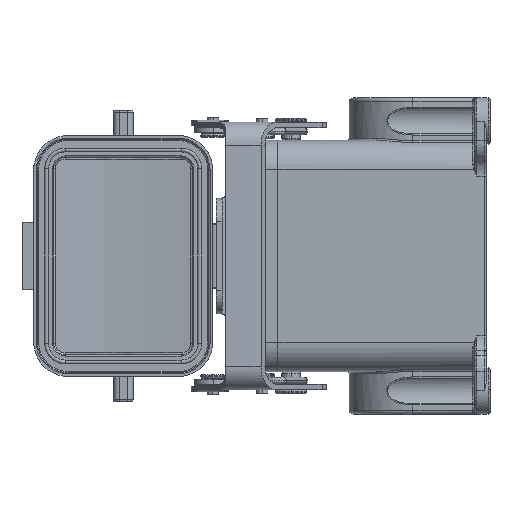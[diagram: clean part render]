
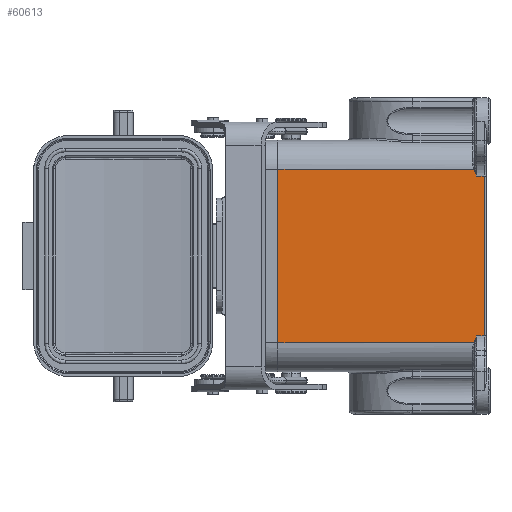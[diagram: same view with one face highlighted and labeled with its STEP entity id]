
A CAD part, left-side view. The second image highlights one B-rep face of the part: STEP entity #60613.
In plain terms, the highlighted planar face has unit normal (-1, 0, 0).
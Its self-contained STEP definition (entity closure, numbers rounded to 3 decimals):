
#3829 = CARTESIAN_POINT ( 'NONE',  ( -21.5, 0., 22.5 ) ) ;
#3921 = CARTESIAN_POINT ( 'NONE',  ( -21.5, 0., -30. ) ) ;
#4219 = VECTOR ( 'NONE', #32084, 1000. ) ;
#6789 = EDGE_LOOP ( 'NONE', ( #139756, #97416, #97574, #104739, #150197, #59338, #105683, #83543 ) ) ;
#9426 = FACE_OUTER_BOUND ( 'NONE', #6789, .T. ) ;
#13438 = CARTESIAN_POINT ( 'NONE',  ( -21.5, 2.5, -20.737 ) ) ;
#14618 = CARTESIAN_POINT ( 'NONE',  ( -21.5, 0.5, -20.737 ) ) ;
#15371 = EDGE_CURVE ( 'NONE', #84803, #158667, #138603, .T. ) ;
#16734 = VERTEX_POINT ( 'NONE', #14618 ) ;
#22528 = CARTESIAN_POINT ( 'NONE',  ( -21.5, 3.216, -22.5 ) ) ;
#22715 = CARTESIAN_POINT ( 'NONE',  ( -21.5, 3.117, -22.202 ) ) ;
#24352 = VECTOR ( 'NONE', #44968, 1000. ) ;
#29800 = EDGE_CURVE ( 'NONE', #158667, #16734, #99670, .T. ) ;
#31078 = CARTESIAN_POINT ( 'NONE',  ( -21.5, 3.216, 22.5 ) ) ;
#32084 = DIRECTION ( 'NONE',  ( 0., 0., -1. ) ) ;
#32135 = DIRECTION ( 'NONE',  ( 0., 0., 1. ) ) ;
#34040 = CARTESIAN_POINT ( 'NONE',  ( -21.5, 2.757, -21.313 ) ) ;
#41011 = B_SPLINE_CURVE_WITH_KNOTS ( 'NONE', 3,
 ( #82966, #44062, #56462, #96540, #58147, #31078 ),
 .UNSPECIFIED., .F., .F.,
 ( 4, 2, 4 ),
 ( 0., 0.5, 1. ),
 .UNSPECIFIED. ) ;
#42029 = VERTEX_POINT ( 'NONE', #44653 ) ;
#42234 = CARTESIAN_POINT ( 'NONE',  ( -21.5, 54., -30. ) ) ;
#43180 = EDGE_CURVE ( 'NONE', #153509, #42029, #76797, .T. ) ;
#44062 = CARTESIAN_POINT ( 'NONE',  ( -21.5, 2.63, 21.021 ) ) ;
#44653 = CARTESIAN_POINT ( 'NONE',  ( -21.5, 54., -22.5 ) ) ;
#44968 = DIRECTION ( 'NONE',  ( 0., -1., 0. ) ) ;
#45111 = VERTEX_POINT ( 'NONE', #58026 ) ;
#45125 = DIRECTION ( 'NONE',  ( -1., 0., 0. ) ) ;
#46538 = EDGE_CURVE ( 'NONE', #90771, #153509, #114928, .T. ) ;
#48119 = CARTESIAN_POINT ( 'NONE',  ( -21.5, 2.5, -20.737 ) ) ;
#48673 = CARTESIAN_POINT ( 'NONE',  ( -21.5, 3.216, -22.5 ) ) ;
#49622 = CARTESIAN_POINT ( 'NONE',  ( -21.5, 3.216, 22.5 ) ) ;
#56462 = CARTESIAN_POINT ( 'NONE',  ( -21.5, 2.757, 21.313 ) ) ;
#57912 = EDGE_CURVE ( 'NONE', #42029, #84803, #98746, .T. ) ;
#58026 = CARTESIAN_POINT ( 'NONE',  ( -21.5, 2.5, 20.737 ) ) ;
#58147 = CARTESIAN_POINT ( 'NONE',  ( -21.5, 3.117, 22.202 ) ) ;
#59338 = ORIENTED_EDGE ( 'NONE', *, *, #106813, .T. ) ;
#60613 = ADVANCED_FACE ( 'NONE', ( #9426 ), #145669, .T. ) ;
#66742 = AXIS2_PLACEMENT_3D ( 'NONE', #3921, #45125, #32135 ) ;
#68132 = DIRECTION ( 'NONE',  ( 0., 0., -1. ) ) ;
#72921 = CARTESIAN_POINT ( 'NONE',  ( -21.5, 2.63, -21.022 ) ) ;
#76076 = DIRECTION ( 'NONE',  ( 0., 1., 0. ) ) ;
#76797 = LINE ( 'NONE', #42234, #133412 ) ;
#79243 = VERTEX_POINT ( 'NONE', #101738 ) ;
#82755 = CARTESIAN_POINT ( 'NONE',  ( -21.5, 0., -22.5 ) ) ;
#82966 = CARTESIAN_POINT ( 'NONE',  ( -21.5, 2.5, 20.737 ) ) ;
#83543 = ORIENTED_EDGE ( 'NONE', *, *, #43180, .T. ) ;
#84803 = VERTEX_POINT ( 'NONE', #22528 ) ;
#85525 = EDGE_CURVE ( 'NONE', #79243, #45111, #131332, .T. ) ;
#88415 = CARTESIAN_POINT ( 'NONE',  ( -21.5, 54., 22.5 ) ) ;
#89502 = CARTESIAN_POINT ( 'NONE',  ( -21.5, 0., -20.737 ) ) ;
#90771 = VERTEX_POINT ( 'NONE', #49622 ) ;
#96540 = CARTESIAN_POINT ( 'NONE',  ( -21.5, 3.005, 21.905 ) ) ;
#97416 = ORIENTED_EDGE ( 'NONE', *, *, #15371, .T. ) ;
#97574 = ORIENTED_EDGE ( 'NONE', *, *, #29800, .T. ) ;
#98746 = LINE ( 'NONE', #82755, #24352 ) ;
#99670 = LINE ( 'NONE', #89502, #156263 ) ;
#101738 = CARTESIAN_POINT ( 'NONE',  ( -21.5, 0.5, 20.737 ) ) ;
#104739 = ORIENTED_EDGE ( 'NONE', *, *, #124388, .F. ) ;
#105683 = ORIENTED_EDGE ( 'NONE', *, *, #46538, .T. ) ;
#106813 = EDGE_CURVE ( 'NONE', #45111, #90771, #41011, .T. ) ;
#107239 = LINE ( 'NONE', #161988, #4219 ) ;
#109127 = VECTOR ( 'NONE', #76076, 1000. ) ;
#112715 = DIRECTION ( 'NONE',  ( 0., -1., 0. ) ) ;
#114928 = LINE ( 'NONE', #3829, #129204 ) ;
#116219 = CARTESIAN_POINT ( 'NONE',  ( -21.5, 0., 20.737 ) ) ;
#124388 = EDGE_CURVE ( 'NONE', #79243, #16734, #107239, .T. ) ;
#129204 = VECTOR ( 'NONE', #143934, 1000. ) ;
#131332 = LINE ( 'NONE', #116219, #109127 ) ;
#133412 = VECTOR ( 'NONE', #68132, 1000. ) ;
#138603 = B_SPLINE_CURVE_WITH_KNOTS ( 'NONE', 3,
 ( #48673, #22715, #150934, #34040, #72921, #48119 ),
 .UNSPECIFIED., .F., .F.,
 ( 4, 2, 4 ),
 ( 0., 0.5, 1. ),
 .UNSPECIFIED. ) ;
#139756 = ORIENTED_EDGE ( 'NONE', *, *, #57912, .T. ) ;
#143934 = DIRECTION ( 'NONE',  ( 0., 1., 0. ) ) ;
#145669 = PLANE ( 'NONE',  #66742 ) ;
#150197 = ORIENTED_EDGE ( 'NONE', *, *, #85525, .T. ) ;
#150934 = CARTESIAN_POINT ( 'NONE',  ( -21.5, 3.005, -21.905 ) ) ;
#153509 = VERTEX_POINT ( 'NONE', #88415 ) ;
#156263 = VECTOR ( 'NONE', #112715, 1000. ) ;
#158667 = VERTEX_POINT ( 'NONE', #13438 ) ;
#161988 = CARTESIAN_POINT ( 'NONE',  ( -21.5, 0.5, 22.746 ) ) ;
